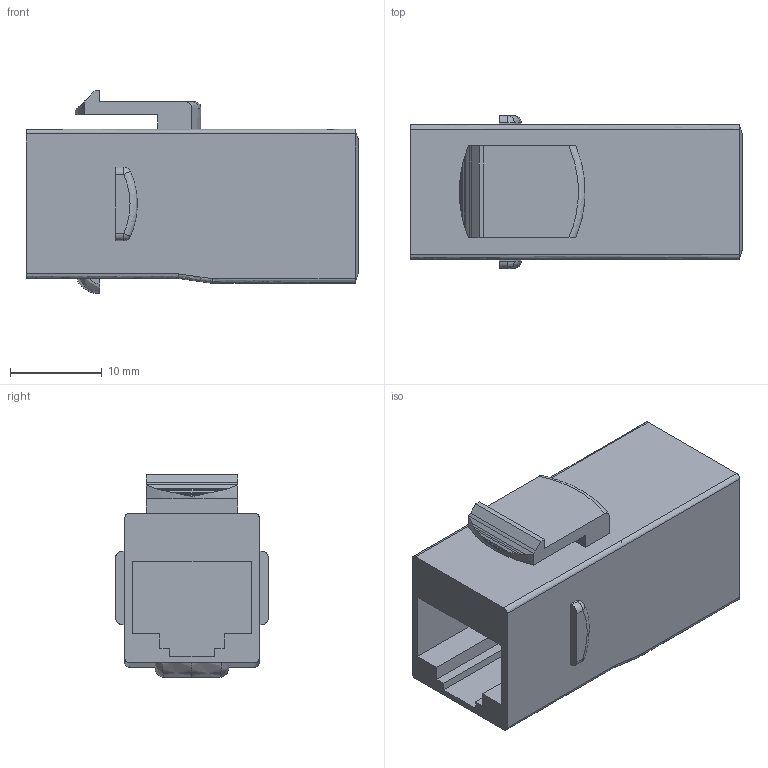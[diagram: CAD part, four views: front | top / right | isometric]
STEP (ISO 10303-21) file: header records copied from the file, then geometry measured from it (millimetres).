
FILE_DESCRIPTION( ('This file contains a STEP AP42 implementation' ,'as created by ZW3D STEP Interface translator.') ,'2;1' );
FILE_NAME( 'TB-032_3013AJUQF6WH_SD.stp' ,'26 330.134526', (''), ('ZWCAD Software Co.'), 'Version 1.0', 'ZW3D to STEP translator', '' );
FILE_SCHEMA(('AUTOMOTIVE_DESIGN'));
Length unit declared in the file: millimetre
Products named in the file (2): 0; TB-032_3013AJUQF6WH_SD
Bounding box: 36.1 x 16.63 x 22.03 mm (x, y, z)
Volume: 6640 mm3; surface area: 3951.2 mm2
Topology: 1 solids, 1 shells, 100 faces, 264 edges, 172 vertices
Faces by surface type: bspline 100
Entity records: 5275 total; most frequent: CARTESIAN_POINT 3527, ORIENTED_EDGE 528, B_SPLINE_CURVE_WITH_KNOTS 264, EDGE_CURVE 264, VERTEX_POINT 172, EDGE_LOOP 106, FACE_OUTER_BOUND 100, ADVANCED_FACE 100
